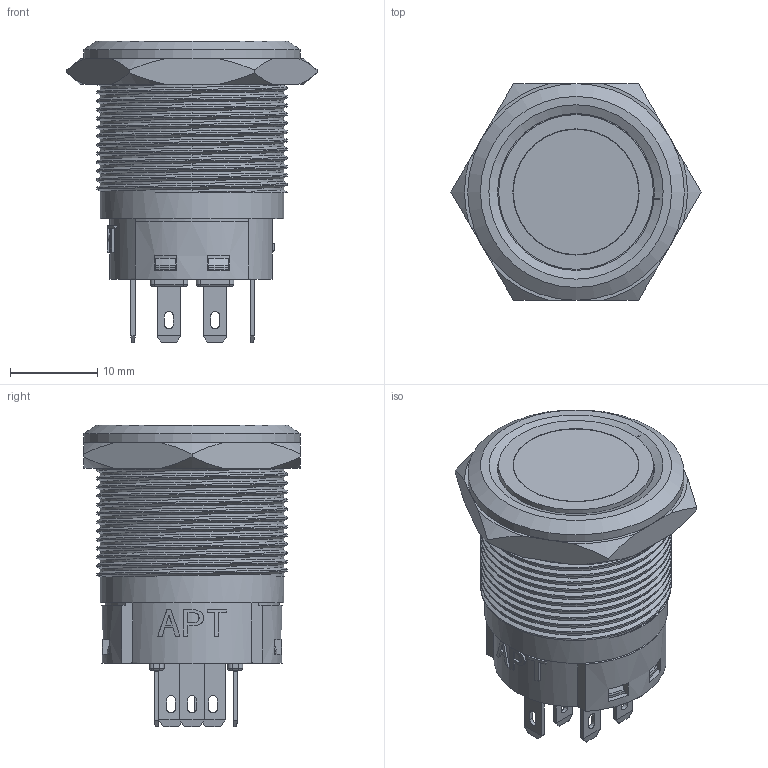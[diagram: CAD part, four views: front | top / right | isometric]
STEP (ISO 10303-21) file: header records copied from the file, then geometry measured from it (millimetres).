
FILE_DESCRIPTION(/* description */ (''),/* implementation_level */ '2;1');
FILE_NAME(/* name */ 'FM22N-SFP-11D1.prt.stp',/* time_stamp */ '2020-08-04T16:06:45+08:00',/* author */ (''),/* organization */ (''),/* preprocessor_version */ 'ST-DEVELOPER v16.7',/* originating_system */ 'SIEMENS PLM Software NX 12.0',/* authorisation */ '');
FILE_SCHEMA (('AUTOMOTIVE_DESIGN { 1 0 10303 214 3 1 1 1 }'));
Products named in the file (1): Admi4F983F75j36q
Bounding box: 28.64 x 24.8 x 34.55 mm (x, y, z)
Volume: 4878.7 mm3; surface area: 9398.1 mm2
Topology: 4 solids, 7 shells, 1331 faces, 3844 edges, 2505 vertices
Faces by surface type: plane 916, cylinder 227, extrusion 82, torus 56, cone 41, bspline 7, sphere 2
Full cylindrical faces by diameter (mm): 1.2 x4, 2 x3, 10.55 x1, 10.8 x1, 11.2 x1, 13.95 x1, 14.35 x1, 14.45 x1, 17.7 x1, 17.95 x1, 20.2 x1, 21 x13, 24.8 x1
Entity records: 56831 total; most frequent: CARTESIAN_POINT 17356, ORIENTED_EDGE 7518, DIRECTION 6587, EDGE_CURVE 3759, VECTOR 2859, LINE 2777, VERTEX_POINT 2461, AXIS2_PLACEMENT_3D 1864
